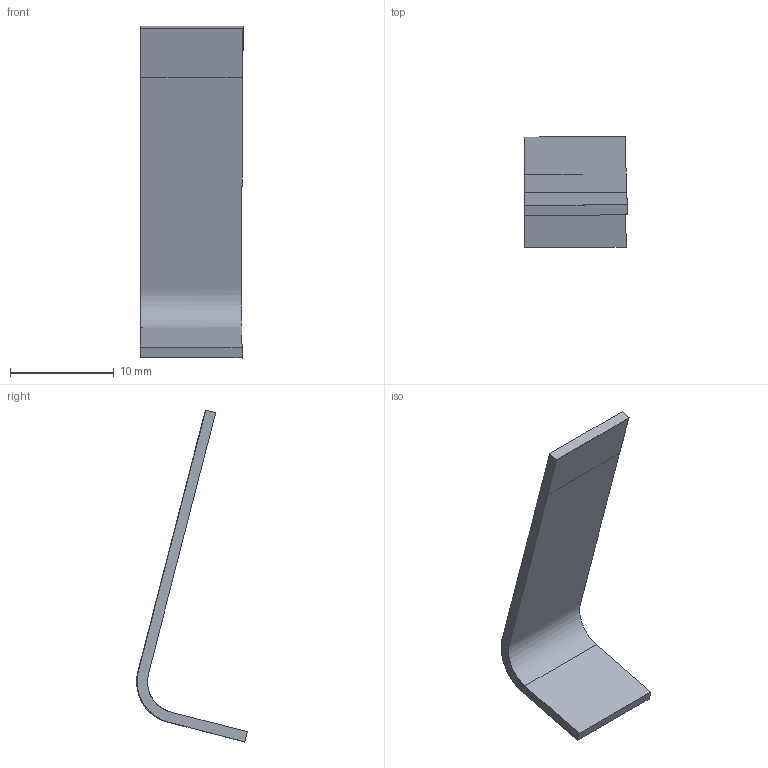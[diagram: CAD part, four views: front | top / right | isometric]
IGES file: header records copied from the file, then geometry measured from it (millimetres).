
Global section: file name: G:\Translator\Data\SAMPLE1.igs; native system: Unknown; preprocessor: Unknown; author: Unknown; organization: Unknown; date: 20000928.220420; units: millimetre
Bounding box: 9.91 x 10.66 x 31.97 mm (x, y, z)
Surface area: 862.3 mm2 (no closed solid volume)
Topology: 0 solids, 0 shells, 13 faces, 72 edges, 72 vertices
Faces by surface type: bspline 13
